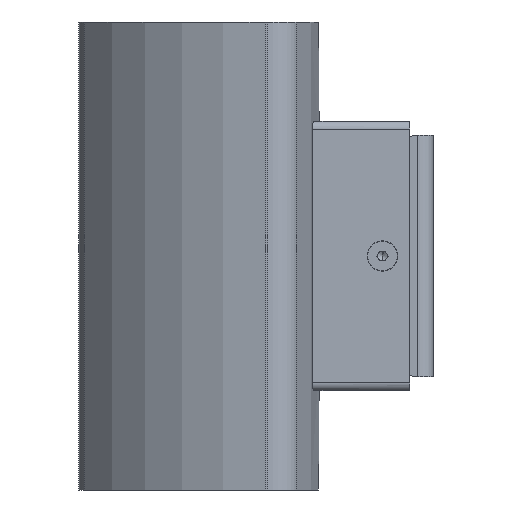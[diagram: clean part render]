
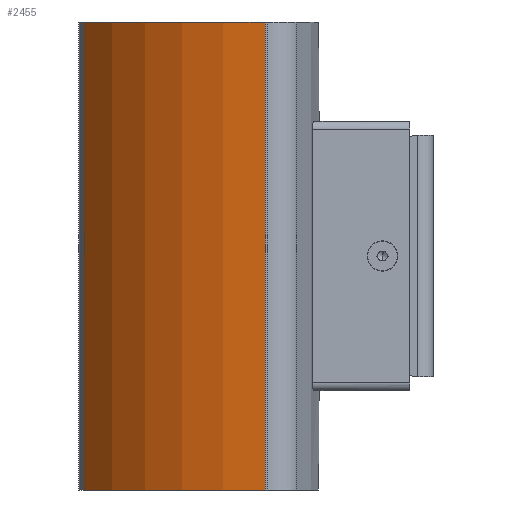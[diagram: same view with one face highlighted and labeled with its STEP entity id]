
A CAD part, left-side view. The second image highlights one B-rep face of the part: STEP entity #2455.
In plain terms, the highlighted cylindrical face has radius 63.5 mm (diameter 127 mm), a partial arc.
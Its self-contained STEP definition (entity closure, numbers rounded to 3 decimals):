
#222 = ORIENTED_EDGE ( 'NONE', *, *, #4250, .T. ) ;
#386 = AXIS2_PLACEMENT_3D ( 'NONE', #5014, #961, #2849 ) ;
#417 = FACE_OUTER_BOUND ( 'NONE', #5065, .T. ) ;
#644 = VECTOR ( 'NONE', #3004, 1000. ) ;
#867 = VERTEX_POINT ( 'NONE', #5674 ) ;
#961 = DIRECTION ( 'NONE',  ( 0., 0., 1. ) ) ;
#990 = VERTEX_POINT ( 'NONE', #1087 ) ;
#1087 = CARTESIAN_POINT ( 'NONE',  ( -31.351, -12.791, 60. ) ) ;
#1103 = DIRECTION ( 'NONE',  ( 1., 0., 0. ) ) ;
#1205 = LINE ( 'NONE', #2592, #644 ) ;
#1222 = CARTESIAN_POINT ( 'NONE',  ( 31.899, -18.417, 60. ) ) ;
#1278 = EDGE_CURVE ( 'NONE', #4824, #867, #3943, .T. ) ;
#1380 = AXIS2_PLACEMENT_3D ( 'NONE', #5157, #5603, #1103 ) ;
#1524 = CIRCLE ( 'NONE', #386, 63.5 ) ;
#1761 = DIRECTION ( 'NONE',  ( 0., 0., -1. ) ) ;
#1836 = CARTESIAN_POINT ( 'NONE',  ( -4.598, 33.547, 60. ) ) ;
#2455 = ADVANCED_FACE ( 'NONE', ( #417 ), #5283, .T. ) ;
#2592 = CARTESIAN_POINT ( 'NONE',  ( -31.351, -12.791, 60. ) ) ;
#2701 = ORIENTED_EDGE ( 'NONE', *, *, #1278, .T. ) ;
#2849 = DIRECTION ( 'NONE',  ( 1., 0., 0. ) ) ;
#2899 = DIRECTION ( 'NONE',  ( 0., 0., -1. ) ) ;
#3004 = DIRECTION ( 'NONE',  ( 0., 0., -1. ) ) ;
#3109 = DIRECTION ( 'NONE',  ( -1., 0., 0. ) ) ;
#3149 = EDGE_CURVE ( 'NONE', #990, #867, #1205, .T. ) ;
#3771 = LINE ( 'NONE', #5126, #5683 ) ;
#3943 = CIRCLE ( 'NONE', #1380, 63.5 ) ;
#4057 = AXIS2_PLACEMENT_3D ( 'NONE', #1222, #1761, #3109 ) ;
#4250 = EDGE_CURVE ( 'NONE', #4575, #4824, #3771, .T. ) ;
#4511 = ORIENTED_EDGE ( 'NONE', *, *, #5174, .F. ) ;
#4575 = VERTEX_POINT ( 'NONE', #1836 ) ;
#4824 = VERTEX_POINT ( 'NONE', #4864 ) ;
#4864 = CARTESIAN_POINT ( 'NONE',  ( -4.598, 33.547, -60. ) ) ;
#5014 = CARTESIAN_POINT ( 'NONE',  ( 31.899, -18.417, 60. ) ) ;
#5065 = EDGE_LOOP ( 'NONE', ( #2701, #5780, #4511, #222 ) ) ;
#5126 = CARTESIAN_POINT ( 'NONE',  ( -4.598, 33.547, 60. ) ) ;
#5157 = CARTESIAN_POINT ( 'NONE',  ( 31.899, -18.417, -60. ) ) ;
#5174 = EDGE_CURVE ( 'NONE', #4575, #990, #1524, .T. ) ;
#5283 = CYLINDRICAL_SURFACE ( 'NONE', #4057, 63.5 ) ;
#5603 = DIRECTION ( 'NONE',  ( 0., 0., 1. ) ) ;
#5674 = CARTESIAN_POINT ( 'NONE',  ( -31.351, -12.791, -60. ) ) ;
#5683 = VECTOR ( 'NONE', #2899, 1000. ) ;
#5780 = ORIENTED_EDGE ( 'NONE', *, *, #3149, .F. ) ;
